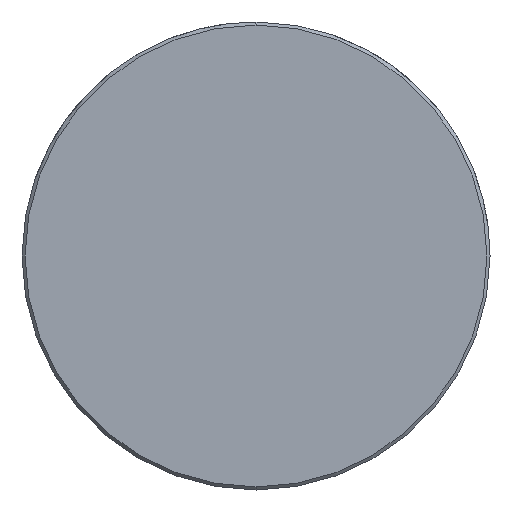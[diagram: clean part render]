
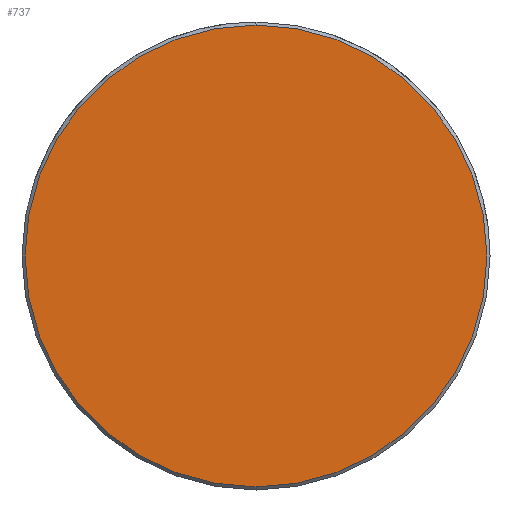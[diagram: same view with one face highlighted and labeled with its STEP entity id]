
A CAD part, left-side view. The second image highlights one B-rep face of the part: STEP entity #737.
In plain terms, the highlighted planar face has unit normal (-1, 0, 0).
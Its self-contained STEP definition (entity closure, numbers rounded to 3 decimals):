
#669=CARTESIAN_POINT('Vertex',(0.,0.,-22.2)) ;
#672=CARTESIAN_POINT('Axis2P3D Location',(0.,0.,0.)) ;
#676=CARTESIAN_POINT('Vertex',(0.,22.2,0.)) ;
#679=CARTESIAN_POINT('Axis2P3D Location',(0.,0.,0.)) ;
#683=CARTESIAN_POINT('Vertex',(0.,0.,22.2)) ;
#705=CARTESIAN_POINT('Axis2P3D Location',(0.,0.,0.)) ;
#709=CARTESIAN_POINT('Vertex',(0.,-22.2,0.)) ;
#712=CARTESIAN_POINT('Axis2P3D Location',(0.,0.,0.)) ;
#726=CARTESIAN_POINT('Axis2P3D Location',(0.,0.,0.)) ;
#673=DIRECTION('Axis2P3D Direction',(1.,0.,-0.)) ;
#680=DIRECTION('Axis2P3D Direction',(1.,0.,-0.)) ;
#706=DIRECTION('Axis2P3D Direction',(1.,0.,-0.)) ;
#713=DIRECTION('Axis2P3D Direction',(1.,0.,-0.)) ;
#727=DIRECTION('Axis2P3D Direction',(1.,0.,-0.)) ;
#728=DIRECTION('Axis2P3D XDirection',(-0.,0.,-1.)) ;
#674=AXIS2_PLACEMENT_3D('Circle Axis2P3D',#672,#673,$) ;
#681=AXIS2_PLACEMENT_3D('Circle Axis2P3D',#679,#680,$) ;
#707=AXIS2_PLACEMENT_3D('Circle Axis2P3D',#705,#706,$) ;
#714=AXIS2_PLACEMENT_3D('Circle Axis2P3D',#712,#713,$) ;
#729=AXIS2_PLACEMENT_3D('Plane Axis2P3D',#726,#727,#728) ;
#732=ORIENTED_EDGE('',*,*,#678,.F.) ;
#733=ORIENTED_EDGE('',*,*,#716,.F.) ;
#734=ORIENTED_EDGE('',*,*,#711,.F.) ;
#735=ORIENTED_EDGE('',*,*,#685,.F.) ;
#737=ADVANCED_FACE('549-40X160',(#736),#730,.F.) ;
#675=CIRCLE('generated circle',#674,22.2) ;
#682=CIRCLE('generated circle',#681,22.2) ;
#708=CIRCLE('generated circle',#707,22.2) ;
#715=CIRCLE('generated circle',#714,22.2) ;
#678=EDGE_CURVE('',#670,#677,#675,.T.) ;
#685=EDGE_CURVE('',#677,#684,#682,.T.) ;
#711=EDGE_CURVE('',#684,#710,#708,.T.) ;
#716=EDGE_CURVE('',#710,#670,#715,.T.) ;
#731=EDGE_LOOP('',(#732,#733,#734,#735)) ;
#736=FACE_OUTER_BOUND('',#731,.T.) ;
#730=PLANE('Plane',#729) ;
#670=VERTEX_POINT('',#669) ;
#677=VERTEX_POINT('',#676) ;
#684=VERTEX_POINT('',#683) ;
#710=VERTEX_POINT('',#709) ;
